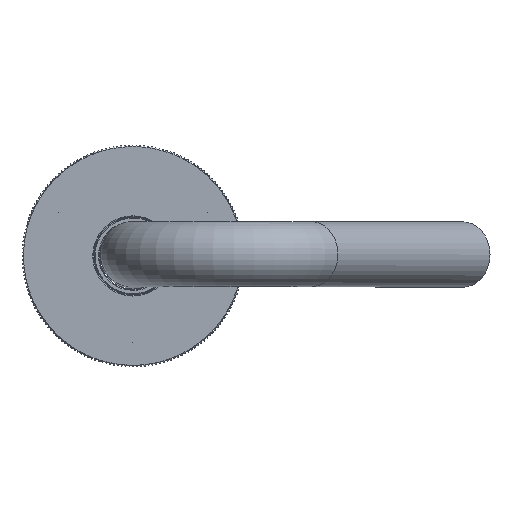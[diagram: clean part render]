
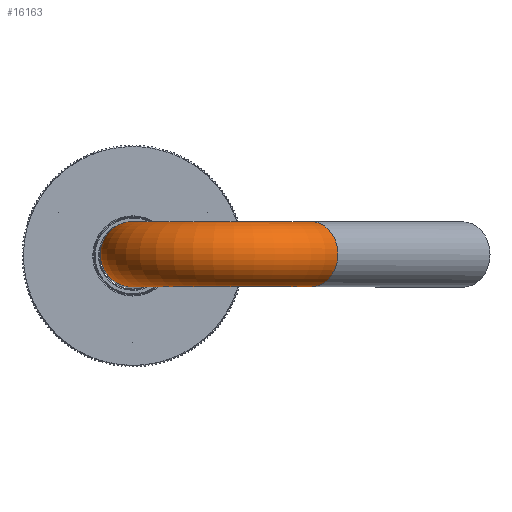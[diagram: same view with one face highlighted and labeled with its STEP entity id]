
A CAD part, top view. The second image highlights one B-rep face of the part: STEP entity #16163.
In plain terms, the highlighted toroidal (fillet/blend) face has major radius 30 mm and minor radius 10 mm.
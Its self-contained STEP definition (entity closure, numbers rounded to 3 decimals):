
#2479=TOROIDAL_SURFACE('',#25257,30.,10.);
#3262=ORIENTED_EDGE('',*,*,#8222,.T.);
#3263=ORIENTED_EDGE('',*,*,#8178,.F.);
#8178=EDGE_CURVE('',#10671,#10671,#12111,.F.);
#8222=EDGE_CURVE('',#10715,#10715,#12125,.F.);
#10671=VERTEX_POINT('',#32477);
#10715=VERTEX_POINT('',#32590);
#12111=CIRCLE('',#25229,10.);
#12125=CIRCLE('',#25256,10.);
#13063=EDGE_LOOP('',(#3262));
#13064=EDGE_LOOP('',(#3263));
#14377=FACE_BOUND('',#13063,.T.);
#14378=FACE_BOUND('',#13064,.T.);
#16163=ADVANCED_FACE('',(#14377,#14378),#2479,.T.);
#25229=AXIS2_PLACEMENT_3D('',#32476,#27408,#27409);
#25256=AXIS2_PLACEMENT_3D('',#32589,#27479,#27480);
#25257=AXIS2_PLACEMENT_3D('',#32591,#27481,#27482);
#27408=DIRECTION('',(0.,0.,1.));
#27409=DIRECTION('',(-1.,0.,0.));
#27479=DIRECTION('',(0.57,0.,-0.822));
#27480=DIRECTION('',(0.822,0.,0.57));
#27481=DIRECTION('',(0.,1.,0.));
#27482=DIRECTION('',(0.,0.,1.));
#32476=CARTESIAN_POINT('',(0.,0.,285.));
#32477=CARTESIAN_POINT('',(-10.,0.,285.));
#32589=CARTESIAN_POINT('',(54.649,0.,302.1));
#32590=CARTESIAN_POINT('',(62.866,0.,307.8));
#32591=CARTESIAN_POINT('',(30.,0.,285.));
